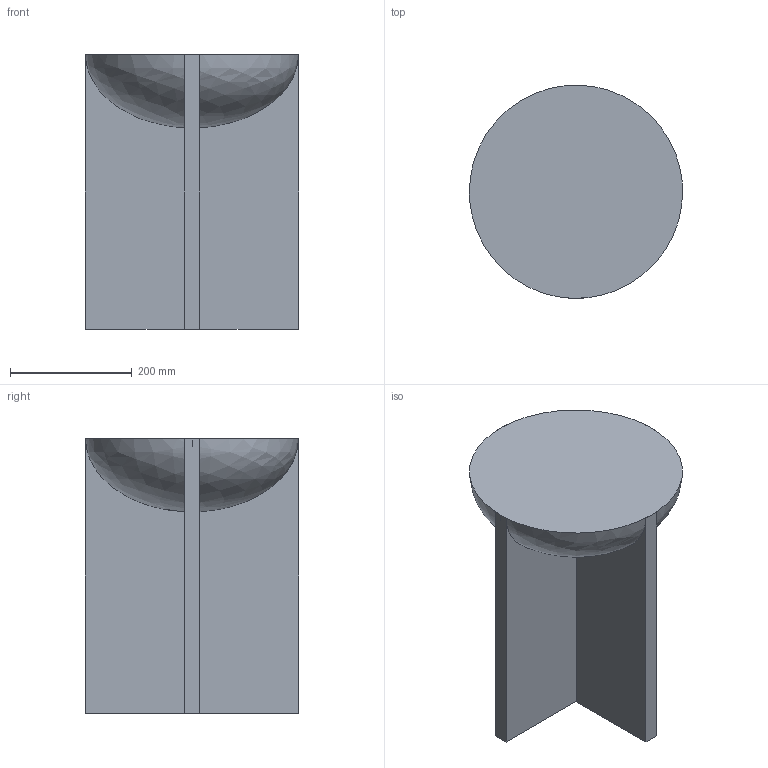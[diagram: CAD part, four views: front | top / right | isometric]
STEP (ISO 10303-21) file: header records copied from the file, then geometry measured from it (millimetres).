
FILE_DESCRIPTION(/* description */ (''),/* implementation_level */ '2;1');
FILE_NAME(/* name */ 'Cross Table',/* time_stamp */ '2022-03-22T12:52:42+01:00',/* author */ (''),/* organization */ (''),/* preprocessor_version */ 'ST-DEVELOPER v15',/* originating_system */ '',/* authorisation */ '');
FILE_SCHEMA (('AUTOMOTIVE_DESIGN'));
Length unit declared in the file: millimetre
Products named in the file (1): Document
Bounding box: 350 x 350 x 450 mm (x, y, z)
Volume: 13718087.8 mm3; surface area: 833423.4 mm2
Topology: 4 solids, 4 shells, 31 faces, 70 edges, 43 vertices
Faces by surface type: plane 24, bspline 7
Entity records: 1191 total; most frequent: CARTESIAN_POINT 700, ORIENTED_EDGE 132, EDGE_CURVE 66, B_SPLINE_CURVE_WITH_KNOTS 51, VERTEX_POINT 43, ADVANCED_FACE 31, FACE_OUTER_BOUND 31, EDGE_LOOP 31
